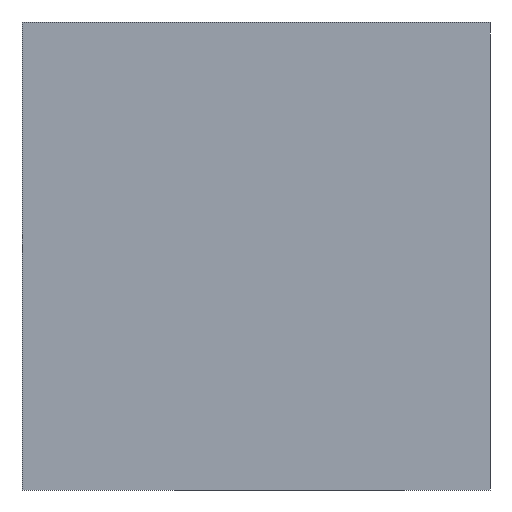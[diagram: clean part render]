
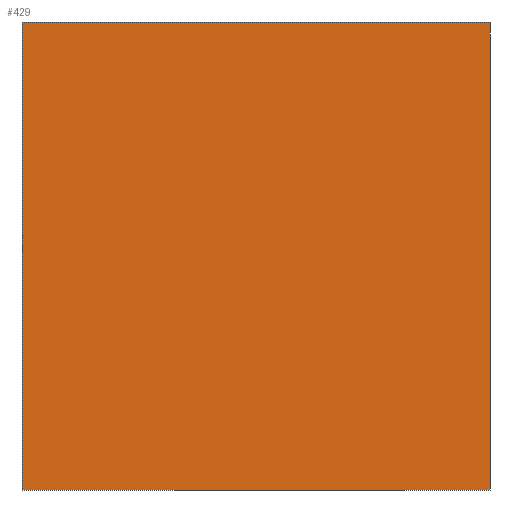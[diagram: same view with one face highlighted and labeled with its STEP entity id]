
A CAD part, front view. The second image highlights one B-rep face of the part: STEP entity #429.
In plain terms, the highlighted planar face has unit normal (0, -1, 0).
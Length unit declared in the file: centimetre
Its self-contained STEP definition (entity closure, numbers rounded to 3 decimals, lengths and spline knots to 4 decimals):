
#1 = VERTEX_POINT ( 'NONE', #495 ) ;
#39 = ORIENTED_EDGE ( 'NONE', *, *, #265, .T. ) ;
#49 = VERTEX_POINT ( 'NONE', #456 ) ;
#50 = VECTOR ( 'NONE', #322, 100. ) ;
#59 = CARTESIAN_POINT ( 'NONE',  ( 0., 0., 1000. ) ) ;
#69 = CARTESIAN_POINT ( 'NONE',  ( 1000., 0., 0. ) ) ;
#73 = DIRECTION ( 'NONE',  ( 1., 0., 0. ) ) ;
#95 = CARTESIAN_POINT ( 'NONE',  ( 0., 0., 1000. ) ) ;
#106 = EDGE_CURVE ( 'NONE', #1, #165, #111, .T. ) ;
#111 = LINE ( 'NONE', #216, #437 ) ;
#123 = VECTOR ( 'NONE', #205, 100. ) ;
#127 = VERTEX_POINT ( 'NONE', #225 ) ;
#136 = LINE ( 'NONE', #95, #279 ) ;
#152 = EDGE_LOOP ( 'NONE', ( #240, #386, #470, #39 ) ) ;
#165 = VERTEX_POINT ( 'NONE', #69 ) ;
#205 = DIRECTION ( 'NONE',  ( 0., 0., -1. ) ) ;
#216 = CARTESIAN_POINT ( 'NONE',  ( 0., 0., 0. ) ) ;
#224 = AXIS2_PLACEMENT_3D ( 'NONE', #323, #367, #253 ) ;
#225 = CARTESIAN_POINT ( 'NONE',  ( 0., 0., 1000. ) ) ;
#234 = EDGE_CURVE ( 'NONE', #127, #49, #136, .T. ) ;
#240 = ORIENTED_EDGE ( 'NONE', *, *, #106, .T. ) ;
#250 = DIRECTION ( 'NONE',  ( 1., 0., 0. ) ) ;
#253 = DIRECTION ( 'NONE',  ( 0., 0., 1. ) ) ;
#265 = EDGE_CURVE ( 'NONE', #127, #1, #325, .T. ) ;
#279 = VECTOR ( 'NONE', #250, 100. ) ;
#283 = EDGE_CURVE ( 'NONE', #49, #165, #445, .T. ) ;
#322 = DIRECTION ( 'NONE',  ( 0., 0., -1. ) ) ;
#323 = CARTESIAN_POINT ( 'NONE',  ( 0., 0., 1000. ) ) ;
#325 = LINE ( 'NONE', #59, #50 ) ;
#359 = PLANE ( 'NONE',  #224 ) ;
#367 = DIRECTION ( 'NONE',  ( 0., 1., 0. ) ) ;
#386 = ORIENTED_EDGE ( 'NONE', *, *, #283, .F. ) ;
#403 = FACE_OUTER_BOUND ( 'NONE', #152, .T. ) ;
#429 = ADVANCED_FACE ( 'NONE', ( #403 ), #359, .F. ) ;
#436 = CARTESIAN_POINT ( 'NONE',  ( 1000., 0., 1000. ) ) ;
#437 = VECTOR ( 'NONE', #73, 100. ) ;
#445 = LINE ( 'NONE', #436, #123 ) ;
#456 = CARTESIAN_POINT ( 'NONE',  ( 1000., 0., 1000. ) ) ;
#470 = ORIENTED_EDGE ( 'NONE', *, *, #234, .F. ) ;
#495 = CARTESIAN_POINT ( 'NONE',  ( 0., 0., 0. ) ) ;
